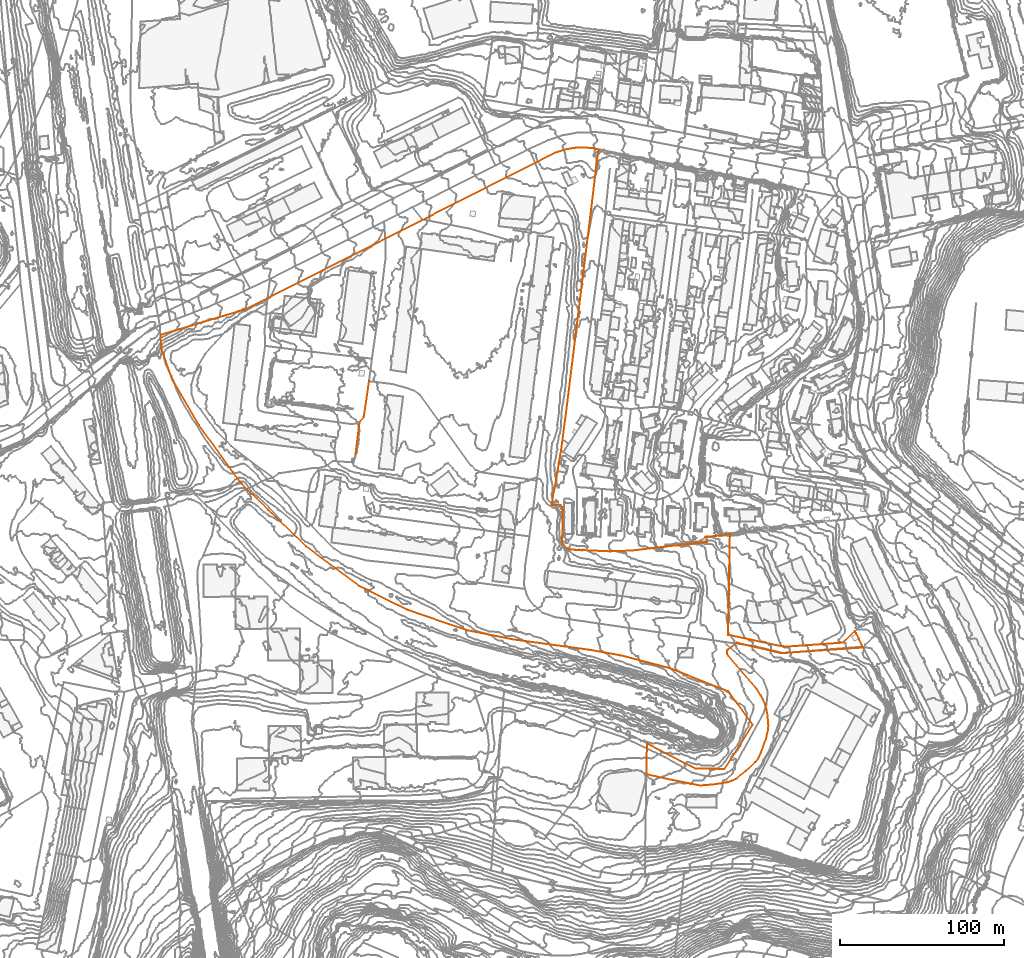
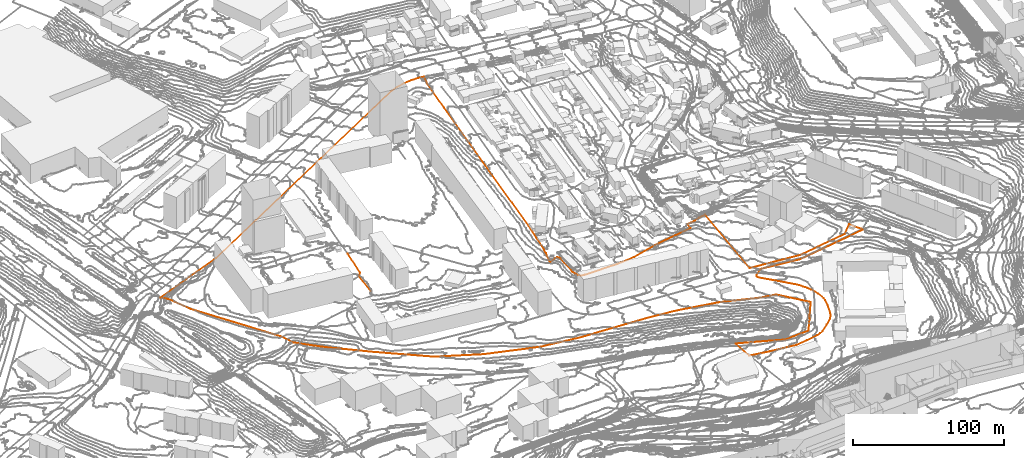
# Not in any storey, part 243 of 419: 3 proxies.
"""IFC2X3 model written with IfcOpenShell, lengths in metres."""

from ifc_helpers import new_model, entity, si_unit, frame, origin_with_axes, place, context, subcontext, project, element, save


model = new_model("IFC2X3")

# Units and contexts
model_context = context("Model", 3, precision=1e-05, world=origin_with_axes())
body_context = subcontext(model_context, "Body", "Model", "MODEL_VIEW")
ifc_project = project(units=[si_unit("AREAUNIT", "SQUARE_METRE"), si_unit("LENGTHUNIT", "METRE")], contexts=[model_context])

# Proxies
proxy_1_placement = place(None, frame((334.6920204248, 664.6976909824, 31.2), z_axis=(0.0, 0.0, 1.0), x_axis=(1.0, 0.0, 0.0)))
element("IfcBuildingElementProxy", 1, at=proxy_1_placement, Name="Route 67", ObjectType="NOTDEFINED", context=body_context, shape_type="GeometricCurveSet", body=[
    entity("IfcGeometricCurveSet", [entity("IfcPolyline", [entity("IfcCartesianPoint", [0.0, 0.0, 0.0]), entity("IfcCartesianPoint", [2.5, 20.1000000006, -0.8])])]),
])
proxy_2_placement = place(None, frame((337.1920204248, 684.7976909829, 30.4), z_axis=(0.0, 0.0, 1.0), x_axis=(1.0, 0.0, 0.0)))
element("IfcBuildingElementProxy", 2, at=proxy_2_placement, Name="Route 136", ObjectType="NOTDEFINED", context=body_context, shape_type="GeometricCurveSet", body=[
    entity("IfcGeometricCurveSet", [entity("IfcPolyline", [entity("IfcCartesianPoint", [0.0, 0.0, 0.0]), entity("IfcCartesianPoint", [2.6, 3.0, 0.1]), entity("IfcCartesianPoint", [5.8, 24.8999999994, 1.1])])]),
])
proxy_3_placement = place(None, frame((215.6420204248, 738.0376909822, 23.3400002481), z_axis=(0.0, 0.0, 1.0), x_axis=(1.0, 0.0, 0.0)))
element("IfcBuildingElementProxy", 3, at=proxy_3_placement, Name="Cadastre 377", ObjectType="NOTDEFINED", context=body_context, shape_type="GeometricCurveSet", body=[
    entity("IfcGeometricCurveSet", [entity("IfcPolyline", [entity("IfcCartesianPoint", [347.62, -121.6299999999, 18.9939531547]), entity("IfcCartesianPoint", [346.46, -183.1599999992, 13.5423363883]), entity("IfcCartesianPoint", [380.73, -190.4699999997, 16.5978476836]), entity("IfcCartesianPoint", [416.37, -187.9099999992, 19.575168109]), entity("IfcCartesianPoint", [423.99, -180.7299999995, 20.519470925]), entity("IfcCartesianPoint", [424.72, -182.21, 20.4036566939]), entity("IfcCartesianPoint", [426.3199999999, -185.4299999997, 20.2918849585]), entity("IfcCartesianPoint", [429.02, -190.8899999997, 20.6553757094]), entity("IfcCartesianPoint", [378.64, -194.3199999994, 16.2051761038]), entity("IfcCartesianPoint", [355.4199999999, -188.8699999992, 14.1608801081]), entity("IfcCartesianPoint", [351.9199999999, -187.9399999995, 13.8792504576]), entity("IfcCartesianPoint", [346.28, -192.1699999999, 13.2108549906]), entity("IfcCartesianPoint", [345.8199999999, -193.1499999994, 13.1953045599]), entity("IfcCartesianPoint", [345.87, -194.5999999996, 13.3025610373]), entity("IfcCartesianPoint", [346.6599999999, -195.8199999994, 13.3672215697]), entity("IfcCartesianPoint", [351.83, -202.0, 13.5748951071]), entity("IfcCartesianPoint", [363.9, -215.9199999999, 13.9202600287]), entity("IfcCartesianPoint", [366.27, -219.7999999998, 13.8560003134]), entity("IfcCartesianPoint", [367.84, -222.5699999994, 13.7932236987]), entity("IfcCartesianPoint", [369.0699999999, -225.5099999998, 13.8463109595]), entity("IfcCartesianPoint", [369.97, -228.6899999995, 13.9278501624]), entity("IfcCartesianPoint", [370.58, -232.21, 14.059189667]), entity("IfcCartesianPoint", [371.11, -238.6499999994, 14.079829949]), entity("IfcCartesianPoint", [370.96, -240.9799999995, 14.063466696]), entity("IfcCartesianPoint", [369.5699999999, -246.6199999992, 14.0143710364]), entity("IfcCartesianPoint", [366.34, -255.6899999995, 14.0172102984]), entity("IfcCartesianPoint", [364.83, -258.6399999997, 14.0176003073]), entity("IfcCartesianPoint", [363.0, -260.9499999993, 13.9813094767]), entity("IfcCartesianPoint", [357.5499999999, -266.0499999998, 13.907739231]), entity("IfcCartesianPoint", [351.5699999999, -270.75, 13.848445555]), entity("IfcCartesianPoint", [348.96, -272.2399999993, 13.7684184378]), entity("IfcCartesianPoint", [346.08, -273.1399999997, 13.7412997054]), entity("IfcCartesianPoint", [337.7899999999, -274.4499999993, 13.4688034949]), entity("IfcCartesianPoint", [329.4299999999, -275.1299999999, 13.0606439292]), entity("IfcCartesianPoint", [311.2, -271.4699999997, 12.0116995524]), entity("IfcCartesianPoint", [296.6799999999, -268.3099999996, 11.6126899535]), entity("IfcCartesianPoint", [297.0, -249.5199999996, 9.8894997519]), entity("IfcCartesianPoint", [311.0399999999, -256.8999999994, 11.0727881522]), entity("IfcCartesianPoint", [326.62, -264.8199999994, 12.0655726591]), entity("IfcCartesianPoint", [344.21, -264.96, 13.2800872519]), entity("IfcCartesianPoint", [349.15, -257.46, 13.7989589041]), entity("IfcCartesianPoint", [361.49, -237.9099999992, 13.9270166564]), entity("IfcCartesianPoint", [346.83, -217.7199999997, 12.882592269]), entity("IfcCartesianPoint", [336.1799999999, -213.6299999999, 11.5434783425]), entity("IfcCartesianPoint", [311.35, -203.6499999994, 10.6013599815]), entity("IfcCartesianPoint", [280.96, -195.6599999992, 9.1775082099]), entity("IfcCartesianPoint", [261.9, -192.3299999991, 8.1414350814]), entity("IfcCartesianPoint", [215.6, -186.0099999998, 5.1294997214]), entity("IfcCartesianPoint", [187.89, -180.5099999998, 3.751641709]), entity("IfcCartesianPoint", [176.9299999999, -176.9099999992, 3.4717532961]), entity("IfcCartesianPoint", [150.5, -167.8299999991, 2.9354448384]), entity("IfcCartesianPoint", [121.1799999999, -153.25, 2.4014701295]), entity("IfcCartesianPoint", [88.8199999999, -129.1799999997, 2.9723898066]), entity("IfcCartesianPoint", [65.8099999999, -106.9199999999, 1.293431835]), entity("IfcCartesianPoint", [55.74, -97.0999999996, 1.1671973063]), entity("IfcCartesianPoint", [49.4399999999, -90.6199999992, 1.0812917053]), entity("IfcCartesianPoint", [44.21, -83.8999999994, 3.6978958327]), entity("IfcCartesianPoint", [23.53, -54.9699999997, 5.3588616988]), entity("IfcCartesianPoint", [7.4099999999, -27.5, 4.6802872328]), entity("IfcCartesianPoint", [0.76, -9.1499999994, 3.974054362]), entity("IfcCartesianPoint", [0.0, 0.0, 0.0]), entity("IfcCartesianPoint", [51.78, 15.4700000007, 4.430843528]), entity("IfcCartesianPoint", [241.21, 111.2700000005, 15.3755998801]), entity("IfcCartesianPoint", [246.87, 113.0800000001, 15.7138712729]), entity("IfcCartesianPoint", [252.72, 114.1200000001, 15.978500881]), entity("IfcCartesianPoint", [258.64, 114.3600000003, 16.3206982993]), entity("IfcCartesianPoint", [264.5699999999, 113.8200000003, 16.6447405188]), entity("IfcCartesianPoint", [267.5699999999, 113.2100000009, 16.7369505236]), entity("IfcCartesianPoint", [266.59, 107.1700000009, 15.0455431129]), entity("IfcCartesianPoint", [263.21, 78.9100000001, 13.8087384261]), entity("IfcCartesianPoint", [249.01, -36.0699999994, 11.3704995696]), entity("IfcCartesianPoint", [245.48, -64.0799999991, 10.9643604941]), entity("IfcCartesianPoint", [244.5399999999, -70.7799999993, 10.7700734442]), entity("IfcCartesianPoint", [243.1, -78.7899999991, 10.782500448]), entity("IfcCartesianPoint", [242.45, -83.2699999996, 10.9305508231]), entity("IfcCartesianPoint", [240.8199999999, -92.6599999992, 10.5632206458]), entity("IfcCartesianPoint", [239.9, -96.7599999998, 10.5330582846]), entity("IfcCartesianPoint", [238.7899999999, -104.0799999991, 8.1598874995]), entity("IfcCartesianPoint", [242.87, -103.7199999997, 9.5275504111]), entity("IfcCartesianPoint", [243.03, -103.7399999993, 9.597838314]), entity("IfcCartesianPoint", [244.2899999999, -104.0799999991, 10.0566636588]), entity("IfcCartesianPoint", [245.22, -105.0999999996, 10.3237132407]), entity("IfcCartesianPoint", [245.45, -106.46, 10.2394988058]), entity("IfcCartesianPoint", [245.4399999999, -106.5499999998, 10.203047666]), entity("IfcCartesianPoint", [245.46, -121.4799999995, 9.5850270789]), entity("IfcCartesianPoint", [245.4099999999, -121.6399999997, 9.5353986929]), entity("IfcCartesianPoint", [244.9, -123.8599999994, 9.69588945]), entity("IfcCartesianPoint", [245.1599999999, -126.2299999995, 10.1827859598]), entity("IfcCartesianPoint", [246.1699999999, -128.3699999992, 9.7591364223]), entity("IfcCartesianPoint", [247.84, -130.0499999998, 9.6956745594]), entity("IfcCartesianPoint", [250.02, -131.0999999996, 10.2999311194]), entity("IfcCartesianPoint", [250.0599999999, -131.1099999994, 10.2947560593]), entity("IfcCartesianPoint", [274.09, -132.1999999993, 11.2555597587]), entity("IfcCartesianPoint", [287.49, -131.7299999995, 12.04318319]), entity("IfcCartesianPoint", [304.46, -129.7399999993, 14.5554902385]), entity("IfcCartesianPoint", [333.61, -126.3999999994, 16.0917512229]), entity("IfcCartesianPoint", [333.14, -123.2599999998, 17.4680990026]), entity("IfcCartesianPoint", [336.1, -123.0499999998, 17.6548450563]), entity("IfcCartesianPoint", [338.6699999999, -122.8799999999, 17.9807031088]), entity("IfcCartesianPoint", [338.71, -122.8799999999, 17.9780310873]), entity("IfcCartesianPoint", [342.5699999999, -122.2199999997, 18.8634763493]), entity("IfcCartesianPoint", [347.62, -121.6299999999, 18.9939531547])])]),
])

save(model, "model.ifc")
